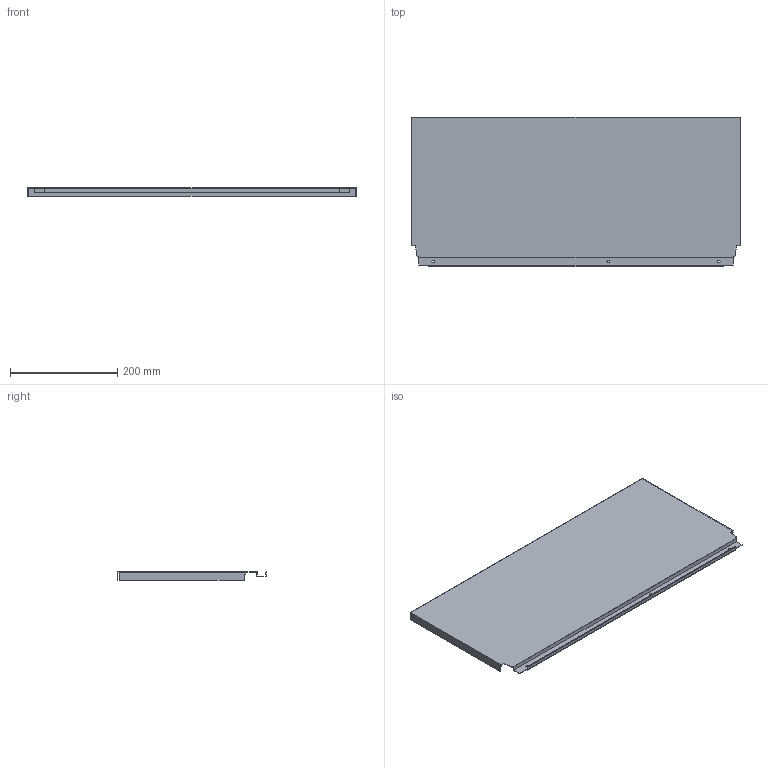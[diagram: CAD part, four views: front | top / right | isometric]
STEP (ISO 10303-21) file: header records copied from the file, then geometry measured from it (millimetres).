
FILE_DESCRIPTION (( 'STEP AP214' ), '1' );
FILE_NAME ('_DWD_XP Stahlrückwand_H278_KAB700_S18.step', '2010-07-08T13:03:58', ( 'grass' ), ( '' ), 'SwSTEP 2.0', 'SolidWorks 2010', '' );
FILE_SCHEMA (( 'AUTOMOTIVE_DESIGN' ));
Length unit declared in the file: millimetre
Products named in the file (1): _DWD_XP Stahlrückwand_H278_KAB700_S18
Bounding box: 613 x 278.57 x 16 mm (x, y, z)
Volume: 171346.1 mm3; surface area: 391075.1 mm2
Topology: 1 solids, 1 shells, 46 faces, 132 edges, 88 vertices
Faces by surface type: plane 40, cylinder 6
Entity records: 1534 total; most frequent: CARTESIAN_POINT 267, ORIENTED_EDGE 264, DIRECTION 238, EDGE_CURVE 132, LINE 120, VECTOR 120, VERTEX_POINT 88, AXIS2_PLACEMENT_3D 59
